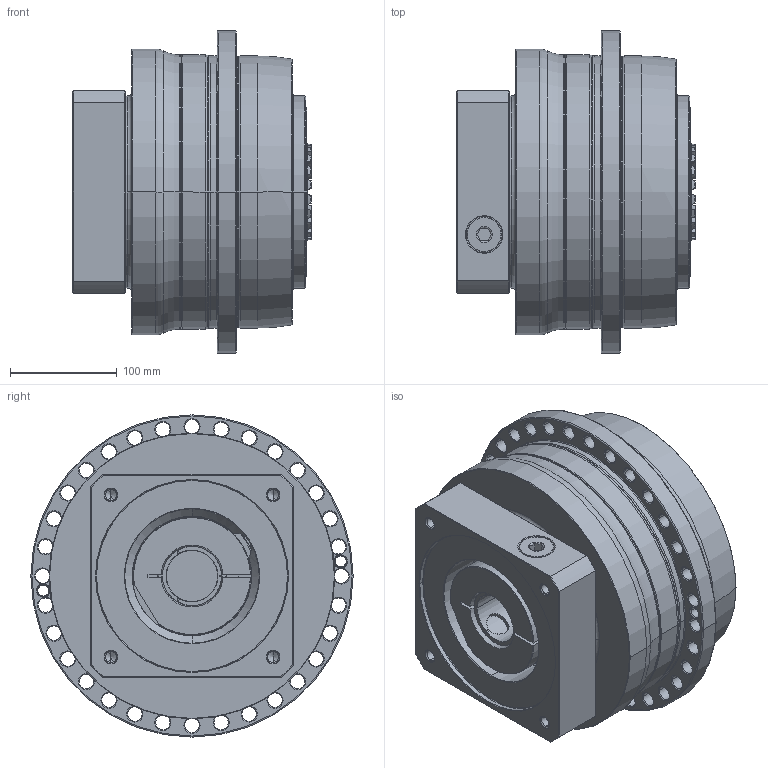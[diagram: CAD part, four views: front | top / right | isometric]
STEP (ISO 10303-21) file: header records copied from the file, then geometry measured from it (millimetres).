
FILE_DESCRIPTION((''),'2;1');
FILE_NAME('APC255_1ST_48-P0409B10201_ASM','2018-06-27T',('d01226'),(''),'PRO/ENGINEER BY PARAMETRIC TECHNOLOGY CORPORATION, 2008410','PRO/ENGINEER BY PARAMETRIC TECHNOLOGY CORPORATION, 2008410','');
FILE_SCHEMA(('CONFIG_CONTROL_DESIGN'));
Length unit declared in the file: millimetre
Products named in the file (9): P0278701003; P0359770103; P1318710301; P0503B00016; P0912753001; P1211700001; P0409B10201; 21711426021; APC255_1ST_48-P0409B10201_ASM
Assembly tree (8 placements, depth 2):
  APC255_1ST_48-P0409B10201_ASM
    P0278701003
    P0359770103
    P1318710301
    P0503B00016
    P0912753001
    P1211700001
    P0409B10201
    21711426021
Bounding box: 223.1 x 302 x 302 mm (x, y, z)
Volume: 9249747.8 mm3; surface area: 780621.8 mm2
Topology: 9 solids, 21 shells, 763 faces, 1881 edges, 1149 vertices
Faces by surface type: cone 270, cylinder 237, plane 130, torus 112, bspline 14
Entity records: 28282 total; most frequent: CARTESIAN_POINT 9744, DIRECTION 4143, ORIENTED_EDGE 3676, EDGE_CURVE 1863, AXIS2_PLACEMENT_3D 1802, VERTEX_POINT 1149, CIRCLE 1024, EDGE_LOOP 878
